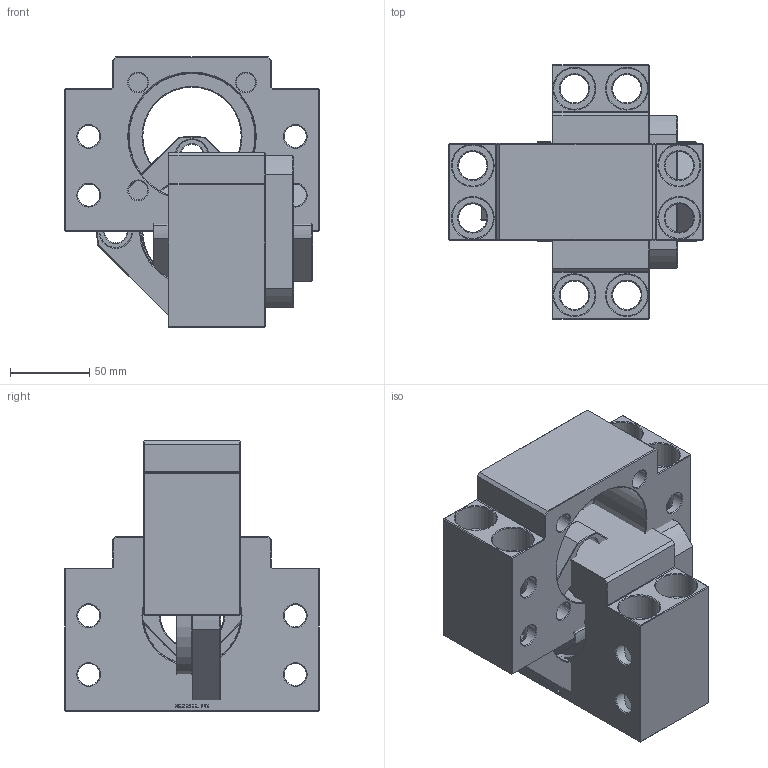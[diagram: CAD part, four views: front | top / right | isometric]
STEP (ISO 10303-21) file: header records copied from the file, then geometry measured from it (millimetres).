
FILE_DESCRIPTION( ( 'Unknown' ), '1' );
FILE_NAME( 'D:/3D/憮んお嶸棉/20060119/SBK TYPE/SBK40/SBK40.stp', 'Unknown', ( 'Unknown' ), ( 'Unknown' ), 'XStep 1.0', 'Unknown', ' ' );
FILE_SCHEMA( ( 'CONFIG_CONTROL_DESIGN' ) );
Length unit declared in the file: millimetre
Products named in the file (10): Assem1; SBK40(collar); SBK40(seal); SBK40(bearing); SBK40(housing); SBK40(holdinglid); SBK40(locknut)
Bounding box: 160 x 160 x 170 mm (x, y, z)
Volume: 1776299 mm3; surface area: 371226.2 mm2
Topology: 18 solids, 18 shells, 1504 faces, 3938 edges, 2544 vertices
Faces by surface type: plane 726, cylinder 592, cone 182, torus 2, bspline 2
Full cylindrical faces by diameter (mm): 8 x2, 12 x8, 14 x32, 18 x8, 20 x8, 26 x8, 40 x10, 50 x8, 62 x8, 65 x2, 80 x8
Entity records: 24423 total; most frequent: CARTESIAN_POINT 5680, DIRECTION 3925, ORIENTED_EDGE 3594, EDGE_CURVE 1797, AXIS2_PLACEMENT_3D 1429, VERTEX_POINT 1224, LINE 1067, VECTOR 1067
